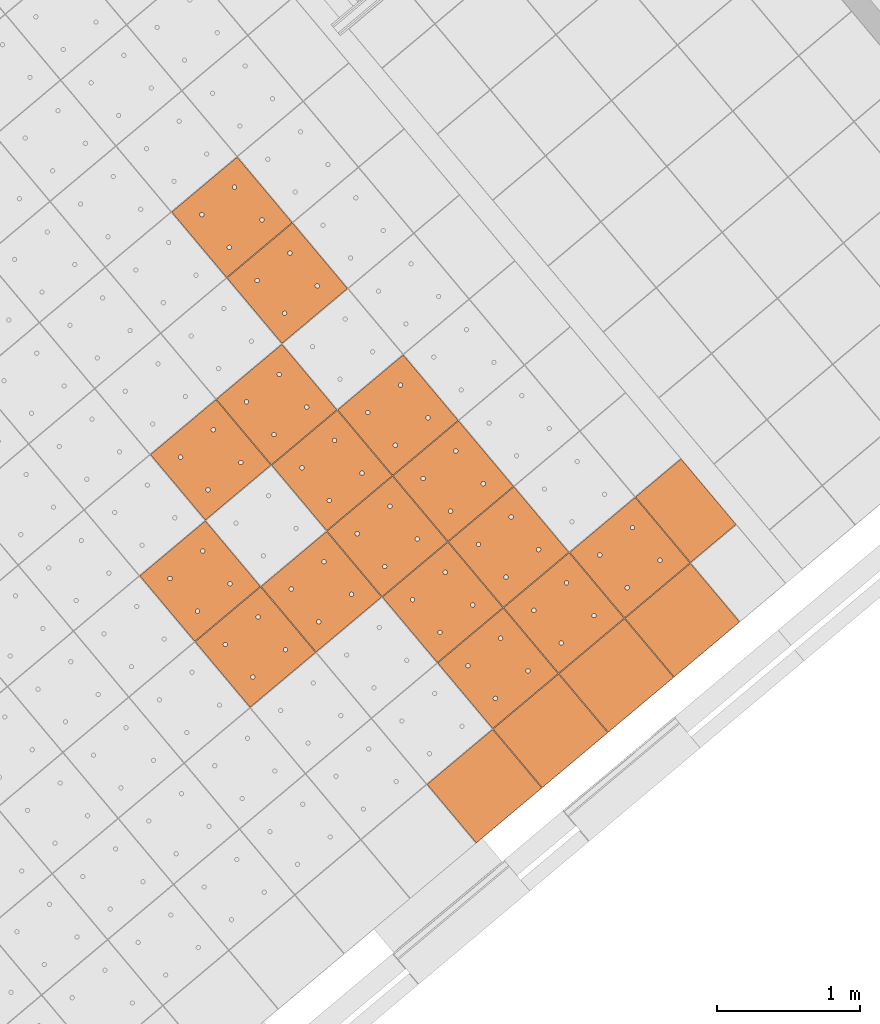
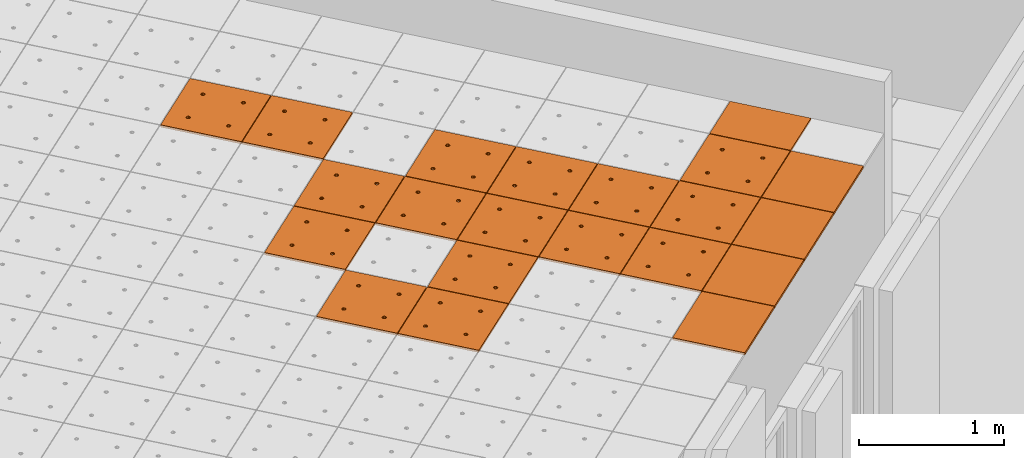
# One storey, part 189 of 338: 21 proxies, 1 element without a shape of its own.
"""IFC2X3 building model written with IfcOpenShell, lengths in millimetres."""

from ifc_helpers import new_model, entity, si_unit, converted_unit, derived_unit, money_unit, direction, frame, origin_with_axes, place, context, subcontext, project, spatial, faceted_brep, source, transform, mapped, material, type_object, type_shapes, element, aggregate, save


model = new_model("IFC2X3")

# Units and contexts
model_context = context("Model", 3, precision=0.01, world=origin_with_axes(), true_north=direction((0.0, 1.0)))
plan_context = context("Plan", 3, precision=0.01, world=origin_with_axes(), true_north=direction((0.0, 1.0)))
body_context = subcontext(model_context, "Body", "Model", "MODEL_VIEW")
ifc_project = project(units=[si_unit("LENGTHUNIT", "METRE", prefix="MILLI"), si_unit("AREAUNIT", "SQUARE_METRE"), si_unit("VOLUMEUNIT", "CUBIC_METRE"), converted_unit("PLANEANGLEUNIT", "DEGREE", entity("IfcPlaneAngleMeasure", 0.0174532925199), si_unit("PLANEANGLEUNIT", "RADIAN"), dimensions=[0, 0, 0, 0, 0, 0, 0]), money_unit("EUR"), converted_unit("TIMEUNIT", "Year", entity("IfcTimeMeasure", 31556926.0), si_unit("TIMEUNIT", "SECOND"), dimensions=[0, 0, 1, 0, 0, 0, 0]), si_unit("MASSUNIT", "GRAM", prefix="KILO"), si_unit("THERMODYNAMICTEMPERATUREUNIT", "DEGREE_CELSIUS"), si_unit("LUMINOUSINTENSITYUNIT", "LUMEN"), si_unit("ENERGYUNIT", "JOULE", prefix="MEGA"), derived_unit("THERMALCONDUCTANCEUNIT", [(si_unit("POWERUNIT", "WATT"), 1), (si_unit("LENGTHUNIT", "METRE"), -1), (si_unit("THERMODYNAMICTEMPERATUREUNIT", "KELVIN"), -1)]), derived_unit("SPECIFICHEATCAPACITYUNIT", [(si_unit("ENERGYUNIT", "JOULE"), 1), (si_unit("MASSUNIT", "GRAM", prefix="KILO"), -1), (si_unit("THERMODYNAMICTEMPERATUREUNIT", "KELVIN"), -1)]), derived_unit("MASSDENSITYUNIT", [(si_unit("MASSUNIT", "GRAM", prefix="KILO"), 1), (si_unit("VOLUMEUNIT", "CUBIC_METRE"), -1)])], contexts=[model_context, plan_context])

# Site, building, storey
site_placement = place(None, origin_with_axes())
site = spatial("IfcSite", under=ifc_project, at=site_placement, Name="Fortuinstraat Woensdrecht", CompositionType="ELEMENT")
building_placement = place(site_placement, origin_with_axes())
building = spatial("IfcBuilding", under=site, at=building_placement, Name="IKC Fortuna", CompositionType="ELEMENT")
storey_placement = place(building_placement, origin_with_axes())
storey = spatial("IfcBuildingStorey", under=building, at=storey_placement, Name="00 begane grond", CompositionType="ELEMENT", Elevation=0.0)

# Covering, proxies
covering_type = type_object("IfcCoveringType", Name="Curtain Wall Type", PredefinedType="CEILING")
covering_placement = place(storey_placement, frame((19785.7448517, -11392.5753808, 4660.0), z_axis=(0.0, 0.0, 1.0), x_axis=(1.0, 0.0, 0.0)))
covering = element("IfcCovering", 1, at=covering_placement, inside=storey, type_object=covering_type, Name="45_Plafondafwerking_P01", PredefinedType="CEILING")
ifc_material = material(Name="Gipsplaat")
building_element_proxy_type_1 = type_object("IfcBuildingElementProxyType", Name="Main Panel 600 x 600 x 20", PredefinedType="NOTDEFINED")
shared_shape_1 = source(origin_with_axes(), body_context, "Body", "Brep", [
    faceted_brep([(2.49999999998, 2.49999999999, -10.0), (300.0, 2.49999999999, -10.0), (300.0, 2.49999999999, 10.0), (2.49999999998, 2.49999999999, 10.0), (2.49999999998, 300.0, -10.0), (2.49999999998, 597.5, -10.0), (300.0, 597.5, -10.0), (597.5, 597.5, -10.0), (597.5, 300.0, -10.0), (597.5, 2.49999999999, -10.0), (166.25, 450.06232995, -10.0), (165.79423259, 452.64711538, -10.0), (164.896546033, 455.11348892, -10.0), (163.58421608, 457.38651108, -10.0), (161.897117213, 459.39711721, -10.0), (159.886511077, 461.08421608, -10.0), (157.613488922, 462.39654603, -10.0), (155.147115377, 463.29423259, -10.0), (152.562329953, 463.75, -10.0), (149.937670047, 463.75, -10.0), (147.352884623, 463.29423259, -10.0), (144.886511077, 462.39654603, -10.0), (142.613488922, 461.08421608, -10.0), (140.602882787, 459.39711721, -10.0), (138.91578392, 457.38651108, -10.0), (137.603453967, 455.11348892, -10.0), (136.705767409, 452.64711538, -10.0), (136.25, 450.06232995, -10.0), (136.25, 448.75, -10.0), (136.25, 447.43767005, -10.0), (136.705767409, 444.85288462, -10.0), (137.603453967, 442.38651108, -10.0), (138.91578392, 440.11348892, -10.0), (140.602882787, 438.10288279, -10.0), (142.613488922, 436.41578392, -10.0), (144.886511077, 435.10345397, -10.0), (147.352884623, 434.20576741, -10.0), (149.937670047, 433.75, -10.0), (152.562329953, 433.75, -10.0), (155.147115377, 434.20576741, -10.0), (157.613488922, 435.10345397, -10.0), (159.886511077, 436.41578392, -10.0), (161.897117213, 438.10288279, -10.0), (163.58421608, 440.11348892, -10.0), (164.896546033, 442.38651108, -10.0), (165.79423259, 444.85288462, -10.0), (166.25, 447.43767005, -10.0), (463.75, 450.06232995, -10.0), (463.29423259, 452.64711538, -10.0), (462.396546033, 455.11348892, -10.0), (461.08421608, 457.38651108, -10.0), (459.397117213, 459.39711721, -10.0), (457.386511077, 461.08421608, -10.0), (455.113488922, 462.39654603, -10.0), (452.647115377, 463.29423259, -10.0), (450.062329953, 463.75, -10.0), (447.437670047, 463.75, -10.0), (444.852884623, 463.29423259, -10.0), (442.386511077, 462.39654603, -10.0), (440.113488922, 461.08421608, -10.0), (438.102882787, 459.39711721, -10.0), (436.41578392, 457.38651108, -10.0), (435.103453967, 455.11348892, -10.0), (434.205767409, 452.64711538, -10.0), (433.75, 450.06232995, -10.0), (433.75, 448.75, -10.0), (433.75, 447.43767005, -10.0), (434.205767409, 444.85288462, -10.0), (435.103453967, 442.38651108, -10.0), (436.41578392, 440.11348892, -10.0), (438.102882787, 438.10288279, -10.0), (440.113488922, 436.41578392, -10.0), (442.386511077, 435.10345397, -10.0), (444.852884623, 434.20576741, -10.0), (447.437670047, 433.75, -10.0), (450.062329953, 433.75, -10.0), (452.647115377, 434.20576741, -10.0), (455.113488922, 435.10345397, -10.0), (457.386511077, 436.41578392, -10.0), (459.397117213, 438.10288279, -10.0), (461.08421608, 440.11348892, -10.0), (462.396546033, 442.38651108, -10.0), (463.29423259, 444.85288462, -10.0), (463.75, 447.43767005, -10.0), (463.75, 152.56232995, -10.0), (463.29423259, 155.14711538, -10.0), (462.396546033, 157.61348892, -10.0), (461.08421608, 159.88651108, -10.0), (459.397117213, 161.89711721, -10.0), (457.386511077, 163.58421608, -10.0), (455.113488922, 164.89654603, -10.0), (452.647115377, 165.79423259, -10.0), (450.062329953, 166.25, -10.0), (447.437670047, 166.25, -10.0), (444.852884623, 165.79423259, -10.0), (442.386511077, 164.89654603, -10.0), (440.113488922, 163.58421608, -10.0), (438.102882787, 161.89711721, -10.0), (436.41578392, 159.88651108, -10.0), (435.103453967, 157.61348892, -10.0), (434.205767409, 155.14711538, -10.0), (433.75, 152.56232995, -10.0), (433.75, 151.25, -10.0), (433.75, 149.93767005, -10.0), (434.205767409, 147.35288462, -10.0), (435.103453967, 144.88651108, -10.0), (436.41578392, 142.61348892, -10.0), (438.102882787, 140.60288279, -10.0), (440.113488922, 138.91578392, -10.0), (442.386511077, 137.60345397, -10.0), (444.852884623, 136.70576741, -10.0), (447.437670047, 136.25, -10.0), (450.062329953, 136.25, -10.0), (452.647115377, 136.70576741, -10.0), (455.113488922, 137.60345397, -10.0), (457.386511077, 138.91578392, -10.0), (459.397117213, 140.60288279, -10.0), (461.08421608, 142.61348892, -10.0), (462.396546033, 144.88651108, -10.0), (463.29423259, 147.35288462, -10.0), (463.75, 149.93767005, -10.0), (166.25, 152.56232995, -10.0), (165.79423259, 155.14711538, -10.0), (164.896546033, 157.61348892, -10.0), (163.58421608, 159.88651108, -10.0), (161.897117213, 161.89711721, -10.0), (159.886511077, 163.58421608, -10.0), (157.613488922, 164.89654603, -10.0), (155.147115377, 165.79423259, -10.0), (152.562329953, 166.25, -10.0), (149.937670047, 166.25, -10.0), (147.352884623, 165.79423259, -10.0), (144.886511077, 164.89654603, -10.0), (142.613488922, 163.58421608, -10.0), (140.602882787, 161.89711721, -10.0), (138.91578392, 159.88651108, -10.0), (137.603453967, 157.61348892, -10.0), (136.705767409, 155.14711538, -10.0), (136.25, 152.56232995, -10.0), (136.25, 151.25, -10.0), (136.25, 149.93767005, -10.0), (136.705767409, 147.35288462, -10.0), (137.603453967, 144.88651108, -10.0), (138.91578392, 142.61348892, -10.0), (140.602882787, 140.60288279, -10.0), (142.613488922, 138.91578392, -10.0), (144.886511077, 137.60345397, -10.0), (147.352884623, 136.70576741, -10.0), (149.937670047, 136.25, -10.0), (152.562329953, 136.25, -10.0), (155.147115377, 136.70576741, -10.0), (157.613488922, 137.60345397, -10.0), (159.886511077, 138.91578392, -10.0), (161.897117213, 140.60288279, -10.0), (163.58421608, 142.61348892, -10.0), (164.896546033, 144.88651108, -10.0), (165.79423259, 147.35288462, -10.0), (166.25, 149.93767005, -10.0), (597.5, 2.49999999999, 10.0), (597.5, 300.0, 10.0), (597.5, 597.5, 10.0), (300.0, 597.5, 10.0), (2.49999999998, 597.5, 10.0), (2.49999999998, 300.0, 10.0), (166.25, 450.06232995, 10.0), (166.25, 447.43767005, 10.0), (165.79423259, 444.85288462, 10.0), (164.896546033, 442.38651108, 10.0), (163.58421608, 440.11348892, 10.0), (161.897117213, 438.10288279, 10.0), (159.886511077, 436.41578392, 10.0), (157.613488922, 435.10345397, 10.0), (155.147115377, 434.20576741, 10.0), (152.562329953, 433.75, 10.0), (149.937670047, 433.75, 10.0), (147.352884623, 434.20576741, 10.0), (144.886511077, 435.10345397, 10.0), (142.613488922, 436.41578392, 10.0), (140.602882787, 438.10288279, 10.0), (138.91578392, 440.11348892, 10.0), (137.603453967, 442.38651108, 10.0), (136.705767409, 444.85288462, 10.0), (136.25, 447.43767005, 10.0), (136.25, 448.75, 10.0), (136.25, 450.06232995, 10.0), (136.705767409, 452.64711538, 10.0), (137.603453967, 455.11348892, 10.0), (138.91578392, 457.38651108, 10.0), (140.602882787, 459.39711721, 10.0), (142.613488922, 461.08421608, 10.0), (144.886511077, 462.39654603, 10.0), (147.352884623, 463.29423259, 10.0), (149.937670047, 463.75, 10.0), (152.562329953, 463.75, 10.0), (155.147115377, 463.29423259, 10.0), (157.613488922, 462.39654603, 10.0), (159.886511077, 461.08421608, 10.0), (161.897117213, 459.39711721, 10.0), (163.58421608, 457.38651108, 10.0), (164.896546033, 455.11348892, 10.0), (165.79423259, 452.64711538, 10.0), (463.75, 450.06232995, 10.0), (463.75, 447.43767005, 10.0), (463.29423259, 444.85288462, 10.0), (462.396546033, 442.38651108, 10.0), (461.08421608, 440.11348892, 10.0), (459.397117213, 438.10288279, 10.0), (457.386511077, 436.41578392, 10.0), (455.113488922, 435.10345397, 10.0), (452.647115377, 434.20576741, 10.0), (450.062329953, 433.75, 10.0), (447.437670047, 433.75, 10.0), (444.852884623, 434.20576741, 10.0), (442.386511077, 435.10345397, 10.0), (440.113488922, 436.41578392, 10.0), (438.102882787, 438.10288279, 10.0), (436.41578392, 440.11348892, 10.0), (435.103453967, 442.38651108, 10.0), (434.205767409, 444.85288462, 10.0), (433.75, 447.43767005, 10.0), (433.75, 448.75, 10.0), (433.75, 450.06232995, 10.0), (434.205767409, 452.64711538, 10.0), (435.103453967, 455.11348892, 10.0), (436.41578392, 457.38651108, 10.0), (438.102882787, 459.39711721, 10.0), (440.113488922, 461.08421608, 10.0), (442.386511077, 462.39654603, 10.0), (444.852884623, 463.29423259, 10.0), (447.437670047, 463.75, 10.0), (450.062329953, 463.75, 10.0), (452.647115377, 463.29423259, 10.0), (455.113488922, 462.39654603, 10.0), (457.386511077, 461.08421608, 10.0), (459.397117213, 459.39711721, 10.0), (461.08421608, 457.38651108, 10.0), (462.396546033, 455.11348892, 10.0), (463.29423259, 452.64711538, 10.0), (463.75, 152.56232995, 10.0), (463.75, 149.93767005, 10.0), (463.29423259, 147.35288462, 10.0), (462.396546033, 144.88651108, 10.0), (461.08421608, 142.61348892, 10.0), (459.397117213, 140.60288279, 10.0), (457.386511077, 138.91578392, 10.0), (455.113488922, 137.60345397, 10.0), (452.647115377, 136.70576741, 10.0), (450.062329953, 136.25, 10.0), (447.437670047, 136.25, 10.0), (444.852884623, 136.70576741, 10.0), (442.386511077, 137.60345397, 10.0), (440.113488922, 138.91578392, 10.0), (438.102882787, 140.60288279, 10.0), (436.41578392, 142.61348892, 10.0), (435.103453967, 144.88651108, 10.0), (434.205767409, 147.35288462, 10.0), (433.75, 149.93767005, 10.0), (433.75, 151.25, 10.0), (433.75, 152.56232995, 10.0), (434.205767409, 155.14711538, 10.0), (435.103453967, 157.61348892, 10.0), (436.41578392, 159.88651108, 10.0), (438.102882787, 161.89711721, 10.0), (440.113488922, 163.58421608, 10.0), (442.386511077, 164.89654603, 10.0), (444.852884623, 165.79423259, 10.0), (447.437670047, 166.25, 10.0), (450.062329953, 166.25, 10.0), (452.647115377, 165.79423259, 10.0), (455.113488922, 164.89654603, 10.0), (457.386511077, 163.58421608, 10.0), (459.397117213, 161.89711721, 10.0), (461.08421608, 159.88651108, 10.0), (462.396546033, 157.61348892, 10.0), (463.29423259, 155.14711538, 10.0), (166.25, 152.56232995, 10.0), (166.25, 149.93767005, 10.0), (165.79423259, 147.35288462, 10.0), (164.896546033, 144.88651108, 10.0), (163.58421608, 142.61348892, 10.0), (161.897117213, 140.60288279, 10.0), (159.886511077, 138.91578392, 10.0), (157.613488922, 137.60345397, 10.0), (155.147115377, 136.70576741, 10.0), (152.562329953, 136.25, 10.0), (149.937670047, 136.25, 10.0), (147.352884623, 136.70576741, 10.0), (144.886511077, 137.60345397, 10.0), (142.613488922, 138.91578392, 10.0), (140.602882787, 140.60288279, 10.0), (138.91578392, 142.61348892, 10.0), (137.603453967, 144.88651108, 10.0), (136.705767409, 147.35288462, 10.0), (136.25, 149.93767005, 10.0), (136.25, 151.25, 10.0), (136.25, 152.56232995, 10.0), (136.705767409, 155.14711538, 10.0), (137.603453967, 157.61348892, 10.0), (138.91578392, 159.88651108, 10.0), (140.602882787, 161.89711721, 10.0), (142.613488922, 163.58421608, 10.0), (144.886511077, 164.89654603, 10.0), (147.352884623, 165.79423259, 10.0), (149.937670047, 166.25, 10.0), (152.562329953, 166.25, 10.0), (155.147115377, 165.79423259, 10.0), (157.613488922, 164.89654603, 10.0), (159.886511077, 163.58421608, 10.0), (161.897117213, 161.89711721, 10.0), (163.58421608, 159.88651108, 10.0), (164.896546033, 157.61348892, 10.0), (165.79423259, 155.14711538, 10.0)], [[[0, 1, 2, 3]], [[0, 4, 5, 6, 7, 8, 9, 1], [10, 11, 12, 13, 14, 15, 16, 17, 18, 19, 20, 21, 22, 23, 24, 25, 26, 27, 28, 29, 30, 31, 32, 33, 34, 35, 36, 37, 38, 39, 40, 41, 42, 43, 44, 45, 46], [47, 48, 49, 50, 51, 52, 53, 54, 55, 56, 57, 58, 59, 60, 61, 62, 63, 64, 65, 66, 67, 68, 69, 70, 71, 72, 73, 74, 75, 76, 77, 78, 79, 80, 81, 82, 83], [84, 85, 86, 87, 88, 89, 90, 91, 92, 93, 94, 95, 96, 97, 98, 99, 100, 101, 102, 103, 104, 105, 106, 107, 108, 109, 110, 111, 112, 113, 114, 115, 116, 117, 118, 119, 120], [121, 122, 123, 124, 125, 126, 127, 128, 129, 130, 131, 132, 133, 134, 135, 136, 137, 138, 139, 140, 141, 142, 143, 144, 145, 146, 147, 148, 149, 150, 151, 152, 153, 154, 155, 156, 157]], [[1, 9, 158, 2]], [[3, 2, 158, 159, 160, 161, 162, 163], [164, 165, 166, 167, 168, 169, 170, 171, 172, 173, 174, 175, 176, 177, 178, 179, 180, 181, 182, 183, 184, 185, 186, 187, 188, 189, 190, 191, 192, 193, 194, 195, 196, 197, 198, 199, 200], [201, 202, 203, 204, 205, 206, 207, 208, 209, 210, 211, 212, 213, 214, 215, 216, 217, 218, 219, 220, 221, 222, 223, 224, 225, 226, 227, 228, 229, 230, 231, 232, 233, 234, 235, 236, 237], [238, 239, 240, 241, 242, 243, 244, 245, 246, 247, 248, 249, 250, 251, 252, 253, 254, 255, 256, 257, 258, 259, 260, 261, 262, 263, 264, 265, 266, 267, 268, 269, 270, 271, 272, 273, 274], [275, 276, 277, 278, 279, 280, 281, 282, 283, 284, 285, 286, 287, 288, 289, 290, 291, 292, 293, 294, 295, 296, 297, 298, 299, 300, 301, 302, 303, 304, 305, 306, 307, 308, 309, 310, 311]], [[4, 0, 3, 163]], [[5, 4, 163, 162]], [[6, 5, 162, 161]], [[7, 6, 161, 160]], [[8, 7, 160, 159]], [[9, 8, 159, 158]], [[11, 10, 164, 200]], [[12, 11, 200, 199]], [[13, 12, 199, 198]], [[14, 13, 198, 197]], [[15, 14, 197, 196]], [[16, 15, 196, 195]], [[17, 16, 195, 194]], [[18, 17, 194, 193]], [[19, 18, 193, 192]], [[20, 19, 192, 191]], [[21, 20, 191, 190]], [[22, 21, 190, 189]], [[23, 22, 189, 188]], [[24, 23, 188, 187]], [[25, 24, 187, 186]], [[26, 25, 186, 185]], [[27, 26, 185, 184]], [[28, 27, 184, 183]], [[29, 28, 183, 182]], [[30, 29, 182, 181]], [[31, 30, 181, 180]], [[32, 31, 180, 179]], [[33, 32, 179, 178]], [[34, 33, 178, 177]], [[35, 34, 177, 176]], [[36, 35, 176, 175]], [[37, 36, 175, 174]], [[38, 37, 174, 173]], [[39, 38, 173, 172]], [[40, 39, 172, 171]], [[41, 40, 171, 170]], [[42, 41, 170, 169]], [[43, 42, 169, 168]], [[44, 43, 168, 167]], [[45, 44, 167, 166]], [[46, 45, 166, 165]], [[10, 46, 165, 164]], [[48, 47, 201, 237]], [[49, 48, 237, 236]], [[50, 49, 236, 235]], [[51, 50, 235, 234]], [[52, 51, 234, 233]], [[53, 52, 233, 232]], [[54, 53, 232, 231]], [[55, 54, 231, 230]], [[56, 55, 230, 229]], [[57, 56, 229, 228]], [[58, 57, 228, 227]], [[59, 58, 227, 226]], [[60, 59, 226, 225]], [[61, 60, 225, 224]], [[62, 61, 224, 223]], [[63, 62, 223, 222]], [[64, 63, 222, 221]], [[65, 64, 221, 220]], [[66, 65, 220, 219]], [[67, 66, 219, 218]], [[68, 67, 218, 217]], [[69, 68, 217, 216]], [[70, 69, 216, 215]], [[71, 70, 215, 214]], [[72, 71, 214, 213]], [[73, 72, 213, 212]], [[74, 73, 212, 211]], [[75, 74, 211, 210]], [[76, 75, 210, 209]], [[77, 76, 209, 208]], [[78, 77, 208, 207]], [[79, 78, 207, 206]], [[80, 79, 206, 205]], [[81, 80, 205, 204]], [[82, 81, 204, 203]], [[83, 82, 203, 202]], [[47, 83, 202, 201]], [[85, 84, 238, 274]], [[86, 85, 274, 273]], [[87, 86, 273, 272]], [[88, 87, 272, 271]], [[89, 88, 271, 270]], [[90, 89, 270, 269]], [[91, 90, 269, 268]], [[92, 91, 268, 267]], [[93, 92, 267, 266]], [[94, 93, 266, 265]], [[95, 94, 265, 264]], [[96, 95, 264, 263]], [[97, 96, 263, 262]], [[98, 97, 262, 261]], [[99, 98, 261, 260]], [[100, 99, 260, 259]], [[101, 100, 259, 258]], [[102, 101, 258, 257]], [[103, 102, 257, 256]], [[104, 103, 256, 255]], [[105, 104, 255, 254]], [[106, 105, 254, 253]], [[107, 106, 253, 252]], [[108, 107, 252, 251]], [[109, 108, 251, 250]], [[110, 109, 250, 249]], [[111, 110, 249, 248]], [[112, 111, 248, 247]], [[113, 112, 247, 246]], [[114, 113, 246, 245]], [[115, 114, 245, 244]], [[116, 115, 244, 243]], [[117, 116, 243, 242]], [[118, 117, 242, 241]], [[119, 118, 241, 240]], [[120, 119, 240, 239]], [[84, 120, 239, 238]], [[122, 121, 275, 311]], [[123, 122, 311, 310]], [[124, 123, 310, 309]], [[125, 124, 309, 308]], [[126, 125, 308, 307]], [[127, 126, 307, 306]], [[128, 127, 306, 305]], [[129, 128, 305, 304]], [[130, 129, 304, 303]], [[131, 130, 303, 302]], [[132, 131, 302, 301]], [[133, 132, 301, 300]], [[134, 133, 300, 299]], [[135, 134, 299, 298]], [[136, 135, 298, 297]], [[137, 136, 297, 296]], [[138, 137, 296, 295]], [[139, 138, 295, 294]], [[140, 139, 294, 293]], [[141, 140, 293, 292]], [[142, 141, 292, 291]], [[143, 142, 291, 290]], [[144, 143, 290, 289]], [[145, 144, 289, 288]], [[146, 145, 288, 287]], [[147, 146, 287, 286]], [[148, 147, 286, 285]], [[149, 148, 285, 284]], [[150, 149, 284, 283]], [[151, 150, 283, 282]], [[152, 151, 282, 281]], [[153, 152, 281, 280]], [[154, 153, 280, 279]], [[155, 154, 279, 278]], [[156, 155, 278, 277]], [[157, 156, 277, 276]], [[121, 157, 276, 275]]]),
])
type_shapes(building_element_proxy_type_1, [shared_shape_1])
proxy_1_placement = place(covering_placement, frame((4620.40376302, 4619.43359426, 0.0), z_axis=(0.0, 0.0, 1.0), x_axis=(1.0, 0.0, 0.0)))
proxy_1 = element("IfcBuildingElementProxy", 2, at=proxy_1_placement, type_object=building_element_proxy_type_1, material=ifc_material, Name="__600x697 Rockfon Krios", context=body_context, shape_type="MappedRepresentation", body=[
    mapped(shared_shape_1, transform((36.9769427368, 422.649625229, 0.0), x_axis=(-0.766044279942, -0.642787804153, 0.0), y_axis=(0.642787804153, -0.766044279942, 0.0), z_axis=(0.0, 0.0, 1.0))),
])
proxy_2_placement = place(covering_placement, frame((1846.74110011, 6991.52031956, 0.0), z_axis=(0.0, 0.0, 1.0), x_axis=(1.0, 0.0, 0.0)))
proxy_2 = element("IfcBuildingElementProxy", 3, at=proxy_2_placement, type_object=building_element_proxy_type_1, material=ifc_material, Name="__600x700 Rockfon Krios", context=body_context, shape_type="MappedRepresentation", body=[
    mapped(shared_shape_1, transform((36.9769427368, 422.649625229, 0.0), x_axis=(-0.766044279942, -0.642787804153, 0.0), y_axis=(0.642787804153, -0.766044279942, 0.0), z_axis=(0.0, 0.0, 1.0))),
])
proxy_3_placement = place(covering_placement, frame((2232.4137826, 6531.89375159, 0.0), z_axis=(0.0, 0.0, 1.0), x_axis=(1.0, 0.0, 0.0)))
proxy_3 = element("IfcBuildingElementProxy", 4, at=proxy_3_placement, type_object=building_element_proxy_type_1, material=ifc_material, Name="__600x701 Rockfon Krios", context=body_context, shape_type="MappedRepresentation", body=[
    mapped(shared_shape_1, transform((36.9769427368, 422.649625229, 0.0), x_axis=(-0.766044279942, -0.642787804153, 0.0), y_axis=(0.642787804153, -0.766044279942, 0.0), z_axis=(0.0, 0.0, 1.0))),
])
proxy_4_placement = place(covering_placement, frame((3003.75914758, 5612.64061566, 0.0), z_axis=(0.0, 0.0, 1.0), x_axis=(1.0, 0.0, 0.0)))
proxy_4 = element("IfcBuildingElementProxy", 5, at=proxy_4_placement, type_object=building_element_proxy_type_1, material=ifc_material, Name="__600x703 Rockfon Krios", context=body_context, shape_type="MappedRepresentation", body=[
    mapped(shared_shape_1, transform((36.9769427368, 422.649625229, 0.0), x_axis=(-0.766044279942, -0.642787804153, 0.0), y_axis=(0.642787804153, -0.766044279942, 0.0), z_axis=(0.0, 0.0, 1.0))),
])
proxy_5_placement = place(covering_placement, frame((3389.43183007, 5153.01404769, 0.0), z_axis=(0.0, 0.0, 1.0), x_axis=(1.0, 0.0, 0.0)))
proxy_5 = element("IfcBuildingElementProxy", 6, at=proxy_5_placement, type_object=building_element_proxy_type_1, material=ifc_material, Name="__600x704 Rockfon Krios", context=body_context, shape_type="MappedRepresentation", body=[
    mapped(shared_shape_1, transform((36.9769427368, 422.649625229, 0.0), x_axis=(-0.766044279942, -0.642787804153, 0.0), y_axis=(0.642787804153, -0.766044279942, 0.0), z_axis=(0.0, 0.0, 1.0))),
])
proxy_6_placement = place(covering_placement, frame((3775.10451257, 4693.38747973, 0.0), z_axis=(0.0, 0.0, 1.0), x_axis=(1.0, 0.0, 0.0)))
proxy_6 = element("IfcBuildingElementProxy", 7, at=proxy_6_placement, type_object=building_element_proxy_type_1, material=ifc_material, Name="__600x705 Rockfon Krios", context=body_context, shape_type="MappedRepresentation", body=[
    mapped(shared_shape_1, transform((36.9769427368, 422.649625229, 0.0), x_axis=(-0.766044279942, -0.642787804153, 0.0), y_axis=(0.642787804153, -0.766044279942, 0.0), z_axis=(0.0, 0.0, 1.0))),
])
proxy_7_placement = place(covering_placement, frame((4160.77719506, 4233.76091176, 0.0), z_axis=(0.0, 0.0, 1.0), x_axis=(1.0, 0.0, 0.0)))
proxy_7 = element("IfcBuildingElementProxy", 8, at=proxy_7_placement, type_object=building_element_proxy_type_1, material=ifc_material, Name="__600x706 Rockfon Krios", context=body_context, shape_type="MappedRepresentation", body=[
    mapped(shared_shape_1, transform((36.9769427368, 422.649625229, 0.0), x_axis=(-0.766044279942, -0.642787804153, 0.0), y_axis=(0.642787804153, -0.766044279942, 0.0), z_axis=(0.0, 0.0, 1.0))),
])
proxy_8_placement = place(covering_placement, frame((2158.45989712, 5686.59450113, 0.0), z_axis=(0.0, 0.0, 1.0), x_axis=(1.0, 0.0, 0.0)))
proxy_8 = element("IfcBuildingElementProxy", 9, at=proxy_8_placement, type_object=building_element_proxy_type_1, material=ifc_material, Name="__600x711 Rockfon Krios", context=body_context, shape_type="MappedRepresentation", body=[
    mapped(shared_shape_1, transform((36.9769427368, 422.649625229, 0.0), x_axis=(-0.766044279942, -0.642787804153, 0.0), y_axis=(0.642787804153, -0.766044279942, 0.0), z_axis=(0.0, 0.0, 1.0))),
])
proxy_9_placement = place(covering_placement, frame((2544.13257962, 5226.96793317, 0.0), z_axis=(0.0, 0.0, 1.0), x_axis=(1.0, 0.0, 0.0)))
proxy_9 = element("IfcBuildingElementProxy", 10, at=proxy_9_placement, type_object=building_element_proxy_type_1, material=ifc_material, Name="__600x712 Rockfon Krios", context=body_context, shape_type="MappedRepresentation", body=[
    mapped(shared_shape_1, transform((36.9769427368, 422.649625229, 0.0), x_axis=(-0.766044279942, -0.642787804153, 0.0), y_axis=(0.642787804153, -0.766044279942, 0.0), z_axis=(0.0, 0.0, 1.0))),
])
proxy_10_placement = place(covering_placement, frame((2929.80526211, 4767.3413652, 0.0), z_axis=(0.0, 0.0, 1.0), x_axis=(1.0, 0.0, 0.0)))
proxy_10 = element("IfcBuildingElementProxy", 11, at=proxy_10_placement, type_object=building_element_proxy_type_1, material=ifc_material, Name="__600x713 Rockfon Krios", context=body_context, shape_type="MappedRepresentation", body=[
    mapped(shared_shape_1, transform((36.9769427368, 422.649625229, 0.0), x_axis=(-0.766044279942, -0.642787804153, 0.0), y_axis=(0.642787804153, -0.766044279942, 0.0), z_axis=(0.0, 0.0, 1.0))),
])
proxy_11_placement = place(covering_placement, frame((3315.4779446, 4307.71479724, 0.0), z_axis=(0.0, 0.0, 1.0), x_axis=(1.0, 0.0, 0.0)))
proxy_11 = element("IfcBuildingElementProxy", 12, at=proxy_11_placement, type_object=building_element_proxy_type_1, material=ifc_material, Name="__600x714 Rockfon Krios", context=body_context, shape_type="MappedRepresentation", body=[
    mapped(shared_shape_1, transform((36.9769427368, 422.649625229, 0.0), x_axis=(-0.766044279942, -0.642787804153, 0.0), y_axis=(0.642787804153, -0.766044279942, 0.0), z_axis=(0.0, 0.0, 1.0))),
])
proxy_12_placement = place(covering_placement, frame((3701.15062709, 3848.08822927, 0.0), z_axis=(0.0, 0.0, 1.0), x_axis=(1.0, 0.0, 0.0)))
proxy_12 = element("IfcBuildingElementProxy", 13, at=proxy_12_placement, type_object=building_element_proxy_type_1, material=ifc_material, Name="__600x715 Rockfon Krios", context=body_context, shape_type="MappedRepresentation", body=[
    mapped(shared_shape_1, transform((36.9769427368, 422.649625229, 0.0), x_axis=(-0.766044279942, -0.642787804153, 0.0), y_axis=(0.642787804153, -0.766044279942, 0.0), z_axis=(0.0, 0.0, 1.0))),
])
proxy_13_placement = place(covering_placement, frame((1698.83332916, 5300.92181864, 0.0), z_axis=(0.0, 0.0, 1.0), x_axis=(1.0, 0.0, 0.0)))
proxy_13 = element("IfcBuildingElementProxy", 14, at=proxy_13_placement, type_object=building_element_proxy_type_1, material=ifc_material, Name="__600x720 Rockfon Krios", context=body_context, shape_type="MappedRepresentation", body=[
    mapped(shared_shape_1, transform((36.9769427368, 422.649625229, 0.0), x_axis=(-0.766044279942, -0.642787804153, 0.0), y_axis=(0.642787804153, -0.766044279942, 0.0), z_axis=(0.0, 0.0, 1.0))),
])
proxy_14_placement = place(covering_placement, frame((2470.17869414, 4381.66868271, 0.0), z_axis=(0.0, 0.0, 1.0), x_axis=(1.0, 0.0, 0.0)))
proxy_14 = element("IfcBuildingElementProxy", 15, at=proxy_14_placement, type_object=building_element_proxy_type_1, material=ifc_material, Name="__600x722 Rockfon Krios", context=body_context, shape_type="MappedRepresentation", body=[
    mapped(shared_shape_1, transform((36.9769427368, 422.649625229, 0.0), x_axis=(-0.766044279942, -0.642787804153, 0.0), y_axis=(0.642787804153, -0.766044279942, 0.0), z_axis=(0.0, 0.0, 1.0))),
])
proxy_15_placement = place(covering_placement, frame((1624.87944369, 4455.62256818, 1.02140518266e-10), z_axis=(0.0, 0.0, 1.0), x_axis=(1.0, 0.0, 0.0)))
proxy_15 = element("IfcBuildingElementProxy", 16, at=proxy_15_placement, type_object=building_element_proxy_type_1, material=ifc_material, Name="__600x730 Rockfon Krios", context=body_context, shape_type="MappedRepresentation", body=[
    mapped(shared_shape_1, transform((36.9769427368, 422.649625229, 0.0), x_axis=(-0.766044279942, -0.642787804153, 0.0), y_axis=(0.642787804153, -0.766044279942, 0.0), z_axis=(0.0, 0.0, 1.0))),
])
proxy_16_placement = place(covering_placement, frame((2010.55212618, 3995.99600022, 1.02140518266e-10), z_axis=(0.0, 0.0, 1.0), x_axis=(1.0, 0.0, 0.0)))
proxy_16 = element("IfcBuildingElementProxy", 17, at=proxy_16_placement, type_object=building_element_proxy_type_1, material=ifc_material, Name="__600x731 Rockfon Krios", context=body_context, shape_type="MappedRepresentation", body=[
    mapped(shared_shape_1, transform((36.9769427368, 422.649625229, 0.0), x_axis=(-0.766044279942, -0.642787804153, 0.0), y_axis=(0.642787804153, -0.766044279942, 0.0), z_axis=(0.0, 0.0, 1.0))),
])
building_element_proxy_type_2 = type_object("IfcBuildingElementProxyType", Name="600 x 538 x 20", PredefinedType="NOTDEFINED")
shared_shape_2 = source(origin_with_axes(), body_context, "Body", "Brep", [
    faceted_brep([(2.49999356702, 2.5000047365, -10.0), (597.499998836, 2.49999810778, -10.0), (597.499998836, 2.49999810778, 10.0), (2.49999356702, 2.5000047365, 10.0), (2.49999991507, 535.002599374, -10.0), (597.500005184, 535.002592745, -10.0), (597.500005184, 535.002592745, 10.0), (2.49999991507, 535.002599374, 10.0)], [[[0, 1, 2, 3]], [[0, 4, 5, 1]], [[1, 5, 6, 2]], [[3, 2, 6, 7]], [[4, 0, 3, 7]], [[5, 4, 7, 6]]]),
])
type_shapes(building_element_proxy_type_2, [shared_shape_2])
proxy_17_placement = place(covering_placement, frame((3607.11058719, 3026.72671318, 0.0), z_axis=(0.0, 0.0, 1.0), x_axis=(1.0, 0.0, 0.0)))
proxy_17 = element("IfcBuildingElementProxy", 18, at=proxy_17_placement, type_object=building_element_proxy_type_2, material=ifc_material, Name="__600x672 Rockfon Krios", context=body_context, shape_type="MappedRepresentation", body=[
    mapped(shared_shape_2, transform((57.0630971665, 398.711890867, 0.0), x_axis=(-0.766044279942, -0.642787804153, 0.0), y_axis=(0.642787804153, -0.766044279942, 0.0), z_axis=(0.0, 0.0, 1.0))),
])
proxy_18_placement = place(covering_placement, frame((4526.36372312, 3798.07207816, 0.0), z_axis=(0.0, 0.0, 1.0), x_axis=(1.0, 0.0, 0.0)))
proxy_18 = element("IfcBuildingElementProxy", 19, at=proxy_18_placement, type_object=building_element_proxy_type_2, material=ifc_material, Name="__600x675 Rockfon Krios", context=body_context, shape_type="MappedRepresentation", body=[
    mapped(shared_shape_2, transform((57.0630971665, 398.711890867, 0.0), x_axis=(-0.766044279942, -0.642787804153, 0.0), y_axis=(0.642787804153, -0.766044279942, 0.0), z_axis=(0.0, 0.0, 1.0))),
])
proxy_19_placement = place(covering_placement, frame((4066.73715515, 3412.39939567, 0.0), z_axis=(0.0, 0.0, 1.0), x_axis=(1.0, 0.0, 0.0)))
proxy_19 = element("IfcBuildingElementProxy", 20, at=proxy_19_placement, type_object=building_element_proxy_type_2, material=ifc_material, Name="__600x698 Rockfon Krios", context=body_context, shape_type="MappedRepresentation", body=[
    mapped(shared_shape_2, transform((57.0630971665, 398.711890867, 0.0), x_axis=(-0.766044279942, -0.642787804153, 0.0), y_axis=(0.642787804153, -0.766044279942, 0.0), z_axis=(0.0, 0.0, 1.0))),
])
proxy_20_placement = place(covering_placement, frame((4985.99029708, 4183.74475351, 0.0), z_axis=(0.0, 0.0, 1.0), x_axis=(1.0, 0.0, 0.0)))
proxy_20 = element("IfcBuildingElementProxy", 21, at=proxy_20_placement, type_object=building_element_proxy_type_2, material=ifc_material, Name="__600x707 Rockfon Krios", context=body_context, shape_type="MappedRepresentation", body=[
    mapped(shared_shape_2, transform((57.0630911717, 398.711898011, 0.0), x_axis=(-0.766044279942, -0.642787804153, 0.0), y_axis=(0.642787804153, -0.766044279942, 0.0), z_axis=(0.0, 0.0, 1.0))),
])
building_element_proxy_type_3 = type_object("IfcBuildingElementProxyType", Name="417 x 600 x 20", PredefinedType="NOTDEFINED")
shared_shape_3 = source(origin_with_axes(), body_context, "Body", "Brep", [
    faceted_brep([(185.001207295, 2.50000606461, -10.0), (597.500001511, 2.50000135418, -10.0), (597.500001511, 2.50000135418, 10.0), (185.001207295, 2.50000606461, 10.0), (185.001212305, 597.499995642, -10.0), (597.500013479, 597.499999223, -10.0), (597.500013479, 597.499999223, 10.0), (185.001212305, 597.499995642, 10.0)], [[[0, 1, 2, 3]], [[0, 4, 5, 1]], [[1, 5, 6, 2]], [[3, 2, 6, 7]], [[4, 0, 3, 7]], [[5, 4, 7, 6]]]),
])
type_shapes(building_element_proxy_type_3, [shared_shape_3])
proxy_21_placement = place(covering_placement, frame((5010.12832508, 4946.45149913, 0.0), z_axis=(0.0, 0.0, 1.0), x_axis=(1.0, 0.0, 0.0)))
proxy_21 = element("IfcBuildingElementProxy", 22, at=proxy_21_placement, type_object=building_element_proxy_type_3, material=ifc_material, Name="__600x618 Rockfon Krios", context=body_context, shape_type="MappedRepresentation", body=[
    mapped(shared_shape_3, transform((106.878948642, 481.304402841, 0.0), x_axis=(-0.766044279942, -0.642787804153, 0.0), y_axis=(0.642787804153, -0.766044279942, 0.0), z_axis=(0.0, 0.0, 1.0))),
])
aggregate(covering, [proxy_21, proxy_17, proxy_18, proxy_1, proxy_19, proxy_2, proxy_3, proxy_4, proxy_5, proxy_6, proxy_7, proxy_20, proxy_8, proxy_9, proxy_10, proxy_11, proxy_12, proxy_13, proxy_14, proxy_15, proxy_16])

save(model, "model.ifc")
